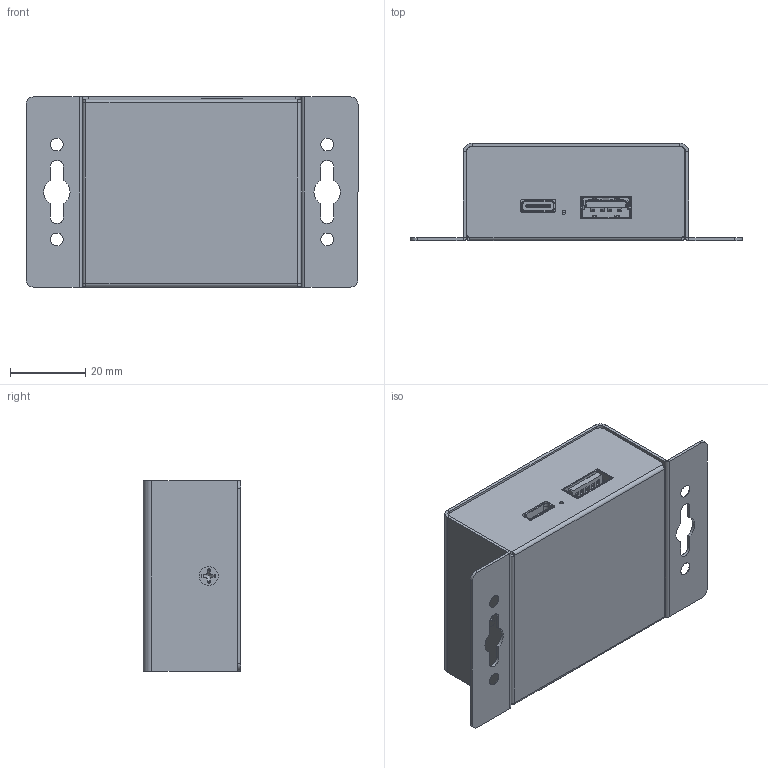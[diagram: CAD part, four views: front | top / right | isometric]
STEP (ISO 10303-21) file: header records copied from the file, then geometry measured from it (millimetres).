
FILE_DESCRIPTION(/* description */ (''),/* implementation_level */ '2;1');
FILE_NAME(/* name */ 'C:/Users/Leo/Downloads/Component26 1.step',/* time_stamp */ '2021-03-25T16:58:34-04:00',/* author */ (''),/* organization */ (''),/* preprocessor_version */ 'ST-DEVELOPER v18.1',/* originating_system */ 'Autodesk Translation Framework v9.10.0.1330',/* authorisation */ '');
FILE_SCHEMA (('AUTOMOTIVE_DESIGN { 1 0 10303 214 3 1 1 }'));
Products named in the file (1): (Unsaved)
Bounding box: 88.2 x 25.9 x 50.5 mm (x, y, z)
Volume: 15711.1 mm3; surface area: 36384.8 mm2
Topology: 1 solids, 11 shells, 2116 faces, 6038 edges, 3904 vertices
Faces by surface type: plane 1533, cylinder 458, bspline 85, cone 30, sphere 6, torus 4
Full cylindrical faces by diameter (mm): 0.5 x2, 1 x1, 2.323 x6, 3 x9, 3.5 x4, 5.3 x4
Entity records: 73116 total; most frequent: CARTESIAN_POINT 17558, ORIENTED_EDGE 12068, DIRECTION 10880, EDGE_CURVE 6034, LINE 4810, VECTOR 4810, VERTEX_POINT 3904, AXIS2_PLACEMENT_3D 3035
